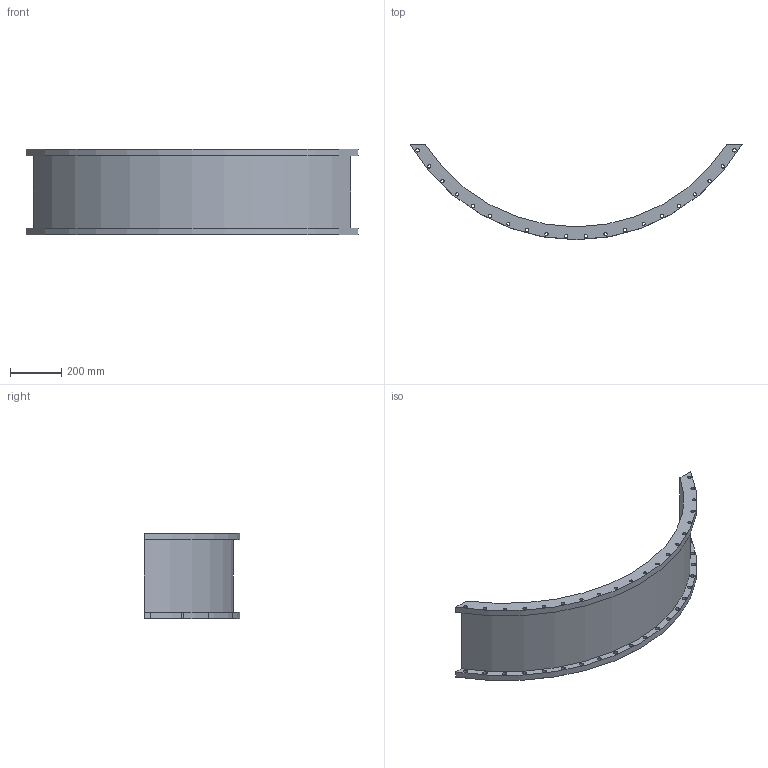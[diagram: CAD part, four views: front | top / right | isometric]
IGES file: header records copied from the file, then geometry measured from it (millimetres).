
Start section:  PTC IGES file: 06.igs
Global section: file name: 06.igs; native system: Pro/ENGINEER by Parametric Technology Corporation; preprocessor: 1999260; author: oshatz; organization: Unknown; date: 000922.101903; units: millimetre
Bounding box: 1290.94 x 371 x 333 mm (x, y, z)
Surface area: 1239115.4 mm2 (no closed solid volume)
Topology: 0 solids, 0 shells, 90 faces, 528 edges, 528 vertices
Faces by surface type: revolution 84, bspline 6
